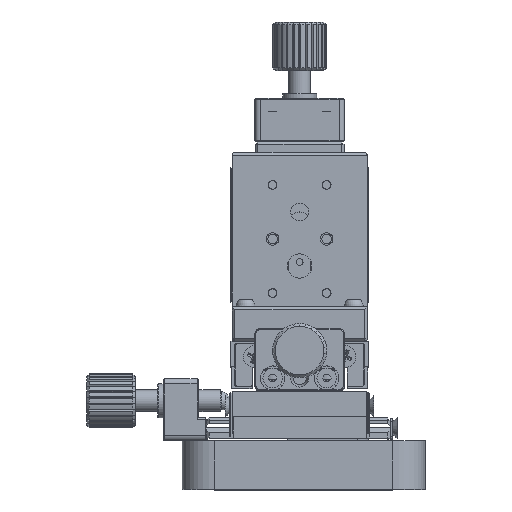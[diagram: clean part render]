
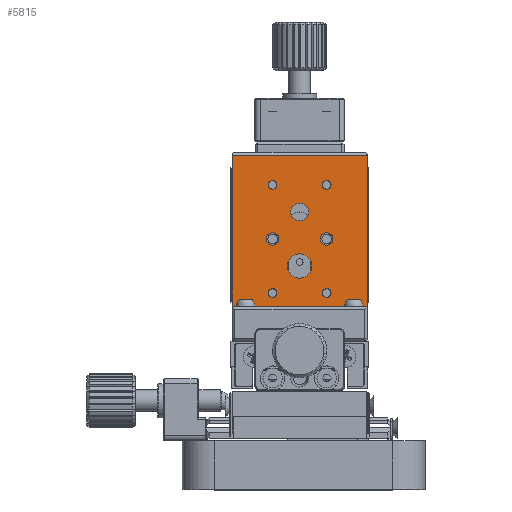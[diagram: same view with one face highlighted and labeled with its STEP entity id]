
A CAD part, top view. The second image highlights one B-rep face of the part: STEP entity #5815.
In plain terms, the highlighted planar face has unit normal (0, 0, 1).
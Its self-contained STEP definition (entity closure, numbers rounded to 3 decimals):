
#1611 = CARTESIAN_POINT ( 'NONE',  ( 21.744, 23.814, -32.179 ) ) ;
#1612 = DIRECTION ( 'NONE',  ( 0., 0., -1. ) ) ;
#1614 = DIRECTION ( 'NONE',  ( -1., 0., 0. ) ) ;
#1625 = DIRECTION ( 'NONE',  ( 0., -1., 0. ) ) ;
#1636 = CARTESIAN_POINT ( 'NONE',  ( 4.244, 39.814, -32.179 ) ) ;
#1675 = CARTESIAN_POINT ( 'NONE',  ( 21.744, 13.814, -32.179 ) ) ;
#1677 = DIRECTION ( 'NONE',  ( 0., 0., -1. ) ) ;
#1678 = DIRECTION ( 'NONE',  ( -1., 0., 0. ) ) ;
#1711 = CARTESIAN_POINT ( 'NONE',  ( 16.744, 28.814, -32.179 ) ) ;
#1713 = DIRECTION ( 'NONE',  ( 0., 0., -1. ) ) ;
#1715 = DIRECTION ( 'NONE',  ( -1., 0., 0. ) ) ;
#1888 = CARTESIAN_POINT ( 'NONE',  ( 21.744, 33.814, -32.179 ) ) ;
#1889 = DIRECTION ( 'NONE',  ( 0., 0., -1. ) ) ;
#1891 = DIRECTION ( 'NONE',  ( -1., 0., 0. ) ) ;
#1967 = CARTESIAN_POINT ( 'NONE',  ( 16.744, 18.814, -32.179 ) ) ;
#1968 = DIRECTION ( 'NONE',  ( 0., 0., -1. ) ) ;
#1970 = DIRECTION ( 'NONE',  ( -1., 0., 0. ) ) ;
#2060 = CARTESIAN_POINT ( 'NONE',  ( 29.244, 39.814, -32.179 ) ) ;
#2079 = DIRECTION ( 'NONE',  ( 0., -1., 0. ) ) ;
#2134 = CARTESIAN_POINT ( 'NONE',  ( 4.744, 39.314, -32.179 ) ) ;
#2136 = DIRECTION ( 'NONE',  ( -1., 0., 0. ) ) ;
#2360 = CARTESIAN_POINT ( 'NONE',  ( 4.244, 11.214, -32.179 ) ) ;
#2362 = DIRECTION ( 'NONE',  ( 1., 0., 0. ) ) ;
#4020 = DIRECTION ( 'NONE',  ( 0., 0., -1. ) ) ;
#4028 = CARTESIAN_POINT ( 'NONE',  ( 4.244, 39.814, -32.179 ) ) ;
#4029 = PLANE ( 'NONE',  #18401 ) ;
#4030 = DIRECTION ( 'NONE',  ( -1., 0., 0. ) ) ;
#5815 = ADVANCED_FACE ( 'NONE', ( #31170, #31167, #31169, #31168, #31174, #31166, #31165, #31164, #31163 ), #4029, .F. ) ;
#6516 = CARTESIAN_POINT ( 'NONE',  ( 11.744, 33.814, -32.179 ) ) ;
#6517 = DIRECTION ( 'NONE',  ( 0., 0., -1. ) ) ;
#6518 = DIRECTION ( 'NONE',  ( -1., 0., 0. ) ) ;
#6526 = CARTESIAN_POINT ( 'NONE',  ( 11.744, 13.814, -32.179 ) ) ;
#6527 = DIRECTION ( 'NONE',  ( 0., 0., -1. ) ) ;
#6528 = DIRECTION ( 'NONE',  ( -1., 0., 0. ) ) ;
#6571 = CARTESIAN_POINT ( 'NONE',  ( 11.744, 23.814, -32.179 ) ) ;
#6572 = DIRECTION ( 'NONE',  ( 0., 0., -1. ) ) ;
#6573 = DIRECTION ( 'NONE',  ( -1., 0., 0. ) ) ;
#7861 = EDGE_CURVE ( 'NONE', #11129, #11129, #12907, .T. ) ;
#7867 = EDGE_CURVE ( 'NONE', #37078, #37088, #12899, .T. ) ;
#7874 = EDGE_CURVE ( 'NONE', #11127, #11127, #12891, .T. ) ;
#7880 = EDGE_CURVE ( 'NONE', #11124, #11124, #12878, .T. ) ;
#7915 = EDGE_CURVE ( 'NONE', #11117, #11117, #12818, .T. ) ;
#7931 = EDGE_CURVE ( 'NONE', #11113, #11113, #12790, .T. ) ;
#7954 = EDGE_CURVE ( 'NONE', #37081, #37085, #12753, .T. ) ;
#7966 = EDGE_CURVE ( 'NONE', #37081, #37078, #12730, .T. ) ;
#8010 = EDGE_CURVE ( 'NONE', #37088, #37085, #12658, .T. ) ;
#8027 = EDGE_CURVE ( 'NONE', #11456, #11456, #12630, .T. ) ;
#8031 = EDGE_CURVE ( 'NONE', #11454, #11454, #12626, .T. ) ;
#8051 = EDGE_CURVE ( 'NONE', #11451, #11451, #12592, .T. ) ;
#11113 = VERTEX_POINT ( 'NONE', #30771 ) ;
#11117 = VERTEX_POINT ( 'NONE', #30767 ) ;
#11124 = VERTEX_POINT ( 'NONE', #30760 ) ;
#11127 = VERTEX_POINT ( 'NONE', #30757 ) ;
#11129 = VERTEX_POINT ( 'NONE', #30755 ) ;
#11451 = VERTEX_POINT ( 'NONE', #30799 ) ;
#11454 = VERTEX_POINT ( 'NONE', #30796 ) ;
#11456 = VERTEX_POINT ( 'NONE', #30794 ) ;
#12592 = CIRCLE ( 'NONE', #23352, 1.15 ) ;
#12626 = CIRCLE ( 'NONE', #23347, 0.8 ) ;
#12630 = CIRCLE ( 'NONE', #23345, 0.8 ) ;
#12655 = VECTOR ( 'NONE', #2362, 1000. ) ;
#12658 = LINE ( 'NONE', #2360, #12655 ) ;
#12727 = VECTOR ( 'NONE', #2136, 1000. ) ;
#12730 = LINE ( 'NONE', #2134, #12727 ) ;
#12751 = VECTOR ( 'NONE', #2079, 1000. ) ;
#12753 = LINE ( 'NONE', #2060, #12751 ) ;
#12790 = CIRCLE ( 'NONE', #23315, 2.25 ) ;
#12818 = CIRCLE ( 'NONE', #23311, 0.8 ) ;
#12878 = CIRCLE ( 'NONE', #23300, 1.65 ) ;
#12891 = CIRCLE ( 'NONE', #23296, 0.8 ) ;
#12896 = VECTOR ( 'NONE', #1625, 1000. ) ;
#12899 = LINE ( 'NONE', #1636, #12896 ) ;
#12907 = CIRCLE ( 'NONE', #23292, 1.15 ) ;
#15108 = ORIENTED_EDGE ( 'NONE', *, *, #8010, .T. ) ;
#15109 = ORIENTED_EDGE ( 'NONE', *, *, #7867, .T. ) ;
#15110 = ORIENTED_EDGE ( 'NONE', *, *, #7966, .T. ) ;
#15111 = ORIENTED_EDGE ( 'NONE', *, *, #7954, .F. ) ;
#15112 = ORIENTED_EDGE ( 'NONE', *, *, #7931, .T. ) ;
#15113 = ORIENTED_EDGE ( 'NONE', *, *, #7880, .T. ) ;
#15114 = ORIENTED_EDGE ( 'NONE', *, *, #7915, .T. ) ;
#15115 = ORIENTED_EDGE ( 'NONE', *, *, #8027, .T. ) ;
#15116 = ORIENTED_EDGE ( 'NONE', *, *, #8051, .T. ) ;
#15117 = ORIENTED_EDGE ( 'NONE', *, *, #7861, .T. ) ;
#15118 = ORIENTED_EDGE ( 'NONE', *, *, #7874, .T. ) ;
#15119 = ORIENTED_EDGE ( 'NONE', *, *, #8031, .T. ) ;
#18401 = AXIS2_PLACEMENT_3D ( 'NONE', #4028, #4020, #4030 ) ;
#23292 = AXIS2_PLACEMENT_3D ( 'NONE', #1611, #1612, #1614 ) ;
#23296 = AXIS2_PLACEMENT_3D ( 'NONE', #1675, #1677, #1678 ) ;
#23300 = AXIS2_PLACEMENT_3D ( 'NONE', #1711, #1713, #1715 ) ;
#23311 = AXIS2_PLACEMENT_3D ( 'NONE', #1888, #1889, #1891 ) ;
#23315 = AXIS2_PLACEMENT_3D ( 'NONE', #1967, #1968, #1970 ) ;
#23345 = AXIS2_PLACEMENT_3D ( 'NONE', #6516, #6517, #6518 ) ;
#23347 = AXIS2_PLACEMENT_3D ( 'NONE', #6526, #6527, #6528 ) ;
#23352 = AXIS2_PLACEMENT_3D ( 'NONE', #6571, #6572, #6573 ) ;
#28553 = EDGE_LOOP ( 'NONE', ( #15112 ) ) ;
#28561 = EDGE_LOOP ( 'NONE', ( #15111, #15110, #15109, #15108 ) ) ;
#28566 = EDGE_LOOP ( 'NONE', ( #15116 ) ) ;
#28569 = EDGE_LOOP ( 'NONE', ( #15113 ) ) ;
#28581 = EDGE_LOOP ( 'NONE', ( #15119 ) ) ;
#28600 = EDGE_LOOP ( 'NONE', ( #15114 ) ) ;
#28605 = EDGE_LOOP ( 'NONE', ( #15118 ) ) ;
#28607 = EDGE_LOOP ( 'NONE', ( #15115 ) ) ;
#28610 = EDGE_LOOP ( 'NONE', ( #15117 ) ) ;
#30419 = CARTESIAN_POINT ( 'NONE',  ( 4.244, 39.314, -32.179 ) ) ;
#30422 = CARTESIAN_POINT ( 'NONE',  ( 29.244, 39.314, -32.179 ) ) ;
#30426 = CARTESIAN_POINT ( 'NONE',  ( 29.244, 11.214, -32.179 ) ) ;
#30429 = CARTESIAN_POINT ( 'NONE',  ( 4.244, 11.214, -32.179 ) ) ;
#30755 = CARTESIAN_POINT ( 'NONE',  ( 20.594, 23.814, -32.179 ) ) ;
#30757 = CARTESIAN_POINT ( 'NONE',  ( 20.944, 13.814, -32.179 ) ) ;
#30760 = CARTESIAN_POINT ( 'NONE',  ( 15.094, 28.814, -32.179 ) ) ;
#30767 = CARTESIAN_POINT ( 'NONE',  ( 20.944, 33.814, -32.179 ) ) ;
#30771 = CARTESIAN_POINT ( 'NONE',  ( 14.494, 18.814, -32.179 ) ) ;
#30794 = CARTESIAN_POINT ( 'NONE',  ( 10.944, 33.814, -32.179 ) ) ;
#30796 = CARTESIAN_POINT ( 'NONE',  ( 10.944, 13.814, -32.179 ) ) ;
#30799 = CARTESIAN_POINT ( 'NONE',  ( 10.594, 23.814, -32.179 ) ) ;
#31163 = FACE_OUTER_BOUND ( 'NONE', #28561, .T. ) ;
#31164 = FACE_BOUND ( 'NONE', #28553, .T. ) ;
#31165 = FACE_BOUND ( 'NONE', #28569, .T. ) ;
#31166 = FACE_BOUND ( 'NONE', #28600, .T. ) ;
#31167 = FACE_BOUND ( 'NONE', #28605, .T. ) ;
#31168 = FACE_BOUND ( 'NONE', #28566, .T. ) ;
#31169 = FACE_BOUND ( 'NONE', #28610, .T. ) ;
#31170 = FACE_BOUND ( 'NONE', #28581, .T. ) ;
#31174 = FACE_BOUND ( 'NONE', #28607, .T. ) ;
#37078 = VERTEX_POINT ( 'NONE', #30419 ) ;
#37081 = VERTEX_POINT ( 'NONE', #30422 ) ;
#37085 = VERTEX_POINT ( 'NONE', #30426 ) ;
#37088 = VERTEX_POINT ( 'NONE', #30429 ) ;
